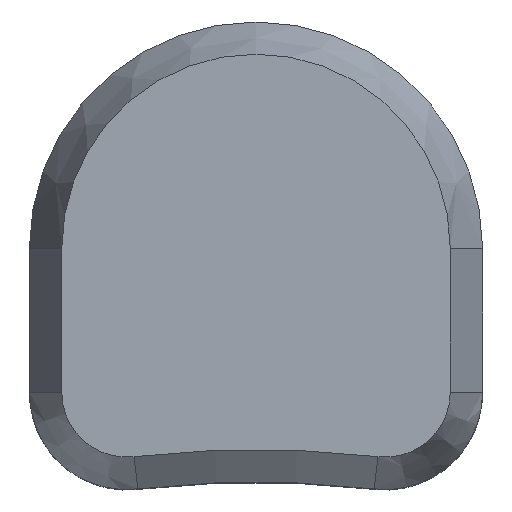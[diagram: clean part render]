
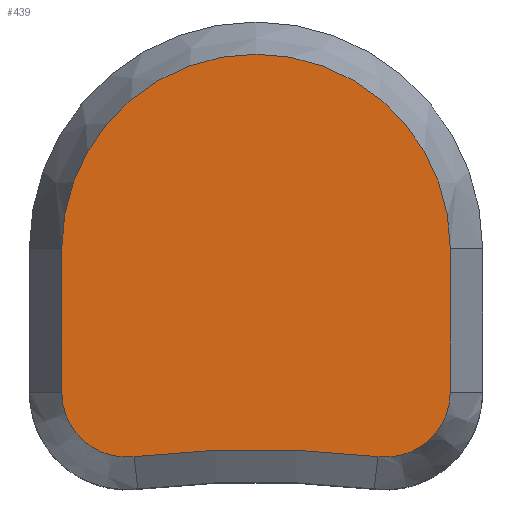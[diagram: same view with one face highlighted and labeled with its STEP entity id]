
A CAD part, top view. The second image highlights one B-rep face of the part: STEP entity #439.
In plain terms, the highlighted planar face has unit normal (0, 0, 1).
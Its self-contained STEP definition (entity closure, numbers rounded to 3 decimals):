
#43=LINE('',#775,#75);
#50=LINE('',#799,#82);
#75=VECTOR('',#576,10.);
#82=VECTOR('',#603,10.);
#102=PLANE('',#501);
#124=FACE_OUTER_BOUND('',#150,.T.);
#150=EDGE_LOOP('',(#384,#385,#386,#387,#388,#389));
#172=CIRCLE('',#487,2.);
#173=CIRCLE('',#489,6.);
#175=CIRCLE('',#492,32.293);
#177=CIRCLE('',#496,2.);
#215=VERTEX_POINT('',#772);
#216=VERTEX_POINT('',#774);
#218=VERTEX_POINT('',#780);
#221=VERTEX_POINT('',#787);
#222=VERTEX_POINT('',#792);
#223=VERTEX_POINT('',#797);
#264=EDGE_CURVE('',#215,#216,#43,.T.);
#269=EDGE_CURVE('',#216,#218,#172,.T.);
#271=EDGE_CURVE('',#221,#215,#173,.T.);
#273=EDGE_CURVE('',#218,#222,#175,.T.);
#277=EDGE_CURVE('',#223,#221,#50,.T.);
#279=EDGE_CURVE('',#222,#223,#177,.T.);
#384=ORIENTED_EDGE('',*,*,#264,.F.);
#385=ORIENTED_EDGE('',*,*,#271,.F.);
#386=ORIENTED_EDGE('',*,*,#277,.F.);
#387=ORIENTED_EDGE('',*,*,#279,.F.);
#388=ORIENTED_EDGE('',*,*,#273,.F.);
#389=ORIENTED_EDGE('',*,*,#269,.F.);
#439=ADVANCED_FACE('',(#124),#102,.T.);
#487=AXIS2_PLACEMENT_3D('',#784,#584,#585);
#489=AXIS2_PLACEMENT_3D('',#789,#589,#590);
#492=AXIS2_PLACEMENT_3D('',#793,#595,#596);
#496=AXIS2_PLACEMENT_3D('',#802,#607,#608);
#501=AXIS2_PLACEMENT_3D('',#818,#624,#625);
#576=DIRECTION('',(0.,-1.,0.));
#584=DIRECTION('center_axis',(0.,0.,-1.));
#585=DIRECTION('ref_axis',(0.665,-0.747,0.));
#589=DIRECTION('center_axis',(0.,0.,-1.));
#590=DIRECTION('ref_axis',(1.,0.,0.));
#595=DIRECTION('center_axis',(0.,0.,1.));
#596=DIRECTION('ref_axis',(1.,0.,0.));
#603=DIRECTION('',(0.,1.,0.));
#607=DIRECTION('center_axis',(0.,0.,-1.));
#608=DIRECTION('ref_axis',(-0.665,-0.747,0.));
#624=DIRECTION('center_axis',(0.,0.,1.));
#625=DIRECTION('ref_axis',(1.,0.,0.));
#772=CARTESIAN_POINT('',(6.,0.,12.));
#774=CARTESIAN_POINT('',(6.,-4.441,12.));
#775=CARTESIAN_POINT('',(6.,-4.25,12.));
#780=CARTESIAN_POINT('',(3.767,-6.427,12.));
#784=CARTESIAN_POINT('Origin',(4.,-4.441,12.));
#787=CARTESIAN_POINT('',(-6.,0.,12.));
#789=CARTESIAN_POINT('Origin',(0.,0.,12.));
#792=CARTESIAN_POINT('',(-3.767,-6.427,12.));
#793=CARTESIAN_POINT('Origin',(0.,-38.5,12.));
#797=CARTESIAN_POINT('',(-6.,-4.441,12.));
#799=CARTESIAN_POINT('',(-6.,-0.25,12.));
#802=CARTESIAN_POINT('Origin',(-4.,-4.441,12.));
#818=CARTESIAN_POINT('Origin',(0.,-0.5,12.));
